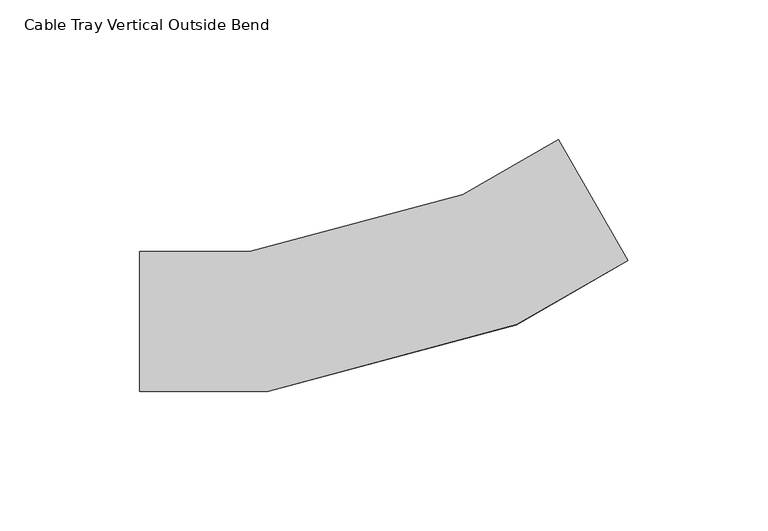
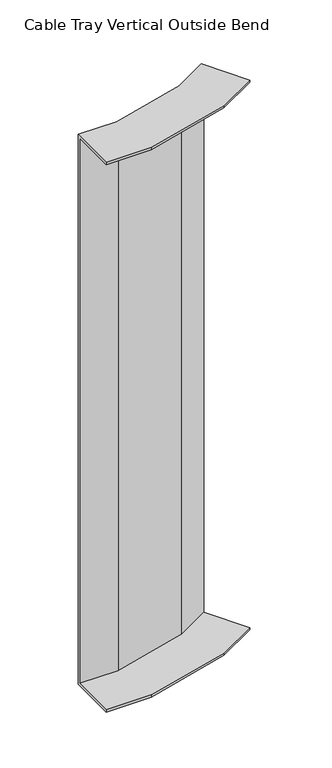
"""IFC4 building model written with IfcOpenShell, lengths in millimetres: cable carrier fitting geometry, Cable Tray Vertical Outside Bend : ELEC_SUB_CT_N2402."""

from ifc_helpers import new_model, si_unit, origin, place, context, project, spatial, faceted_brep, source, transform, mapped, element, save


def cable_tray_vertical_outside_bend_bbdee010(model_context):
    return source(origin(), model_context, "Body", "Brep", [
        faceted_brep([(-87.0834875, -25.0, 300.0), (-87.0834875, 25.0, 300.0), (-87.0834875, 25.0, -300.0), (-87.0834875, -25.0, -300.0), (-87.0834875, -25.0, -297.46), (-87.0834875, 22.46, -297.46), (-87.0834875, 22.46, 297.46), (-87.0834875, -25.0, 297.46), (87.9165125, 21.8911087, 300.0), (87.9165125, 21.8911087, 297.46), (64.1865125, 62.9926743, 297.46), (64.1865125, 62.9926743, -297.46), (87.9165125, 21.8911087, -297.46), (87.9165125, 21.8911087, -300.0), (62.9165125, 65.1923789, -300.0), (62.9165125, 65.1923789, 300.0), (-41.0051134, -25.0, 300.0), (48.0114699, -1.1480784, 300.0), (28.7121902, 45.4445042, 300.0), (-47.5877383, 25.0, 300.0), (-47.5877383, 25.0, -300.0), (28.7121902, 45.4445042, -300.0), (48.0114699, -1.1480784, -300.0), (-41.0051134, -25.0, -300.0), (-41.0051134, -25.0, -297.46), (48.0114699, -1.1480784, -297.46), (29.6925936, 43.077601, -297.46), (-47.2533409, 22.46, -297.46), (-47.2533409, 22.46, 297.46), (29.6925936, 43.077601, 297.46), (48.0114699, -1.1480784, 297.46), (-41.0051134, -25.0, 297.46)], [[[0, 1, 2, 3, 4, 5, 6, 7]], [[8, 9, 10, 11, 12, 13, 14, 15]], [[1, 0, 16, 17, 8, 15, 18, 19]], [[2, 1, 19, 20]], [[3, 2, 20, 21, 14, 13, 22, 23]], [[4, 3, 23, 24]], [[5, 4, 24, 25, 12, 11, 26, 27]], [[6, 5, 27, 28]], [[7, 6, 28, 29, 10, 9, 30, 31]], [[0, 7, 31, 16]], [[20, 19, 18, 21]], [[24, 23, 22, 25]], [[28, 27, 26, 29]], [[16, 31, 30, 17]], [[21, 18, 15, 14]], [[25, 22, 13, 12]], [[29, 26, 11, 10]], [[17, 30, 9, 8]]]),
    ])


if __name__ == "__main__":
    model = new_model("IFC4")
    model_context = context("Model", 3, world=origin())
    ifc_project = project(units=[si_unit("LENGTHUNIT", "METRE", prefix="MILLI")], contexts=[model_context])
    site = spatial("IfcSite", under=ifc_project)
    building = spatial("IfcBuilding", under=site)
    placement = place(None, origin())
    cable_tray_vertical_outside_bend_shape = cable_tray_vertical_outside_bend_bbdee010(model_context)
    element("IfcCableCarrierFitting", 1, ObjectType="Cable Tray Vertical Outside Bend : ELEC_SUB_CT_N2402", at=placement, inside=building, context=model_context, shape_type="MappedRepresentation", body=[
        mapped(cable_tray_vertical_outside_bend_shape, transform((0.0, 0.0, 0.0), x_axis=(1.0, 0.0, 0.0), y_axis=(0.0, 1.0, 0.0), z_axis=(0.0, 0.0, 1.0))),
    ])
    save(model, "model.ifc")
